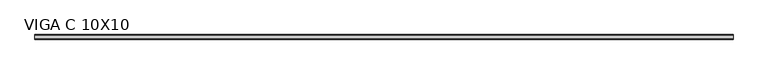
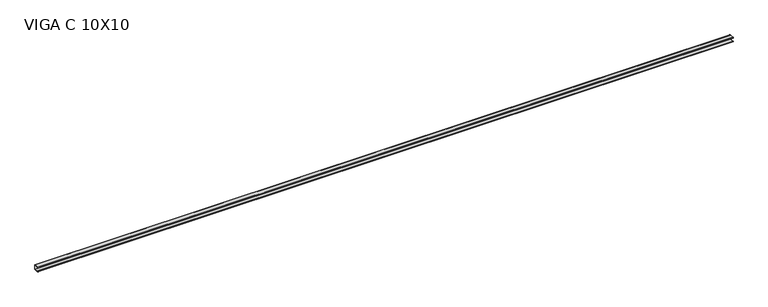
"""IFC4 building model written with IfcOpenShell, lengths in millimetres: beam geometry, VIGA PERFIL C AÇO : VIGA C 10X10."""

from ifc_helpers import new_model, si_unit, point, frame, frame_2d, origin, place, context, project, spatial, polyline, circle_curve, trimmed, segment, composite_curve, outline, extrude, source, transform, mapped, element, save


def viga_c_10x10_1bc73bf7(model_context):
    return source(origin(), model_context, "Body", "SweptSolid", [
        extrude(outline(polyline([(9.2, -50.0), (-90.8, -50.0), (-90.8, -30.0), (-88.9, -30.0), (-88.9, -48.1), (7.3, -48.1), (7.3, 48.1), (-88.9, 48.1), (-88.9, 30.0), (-90.8, 30.0), (-90.8, 50.0), (9.2, 50.0), (9.2, -50.0)])), frame((-7485.0, 0.0, 0.0), z_axis=(1.0, 0.0, 0.0), x_axis=(0.0, 1.0, 0.0)), (0.0, 0.0, 1.0), 14970.0),
        extrude(outline(composite_curve([segment(trimmed(circle_curve(frame_2d((5.4, -46.2)), 3.8), [point((9.2, -46.2))], [point((5.4, -50.0))], False, "CARTESIAN"), True, "CONTINUOUS"), segment(polyline([(5.4, -50.0), (-87.0, -50.0)]), True, "CONTINUOUS"), segment(trimmed(circle_curve(frame_2d((-87.0, -46.2)), 3.8), [point((-87.0, -50.0))], [point((-90.8, -46.2))], False, "CARTESIAN"), True, "CONTINUOUS"), segment(polyline([(-90.8, -46.2), (-90.8, -30.0), (-88.9, -30.0), (-88.9, -46.2)]), True, "CONTINUOUS"), segment(trimmed(circle_curve(frame_2d((-87.0, -46.2)), 1.9), [point((-88.9, -46.2))], [point((-87.0, -48.1))], True, "CARTESIAN"), True, "CONTINUOUS"), segment(polyline([(-87.0, -48.1), (5.4, -48.1)]), True, "CONTINUOUS"), segment(trimmed(circle_curve(frame_2d((5.4, -46.2)), 1.9), [point((5.4, -48.1))], [point((7.3, -46.2))], True, "CARTESIAN"), True, "CONTINUOUS"), segment(polyline([(7.3, -46.2), (7.3, 46.2)]), True, "CONTINUOUS"), segment(trimmed(circle_curve(frame_2d((5.4, 46.2)), 1.9), [point((7.3, 46.2))], [point((5.4, 48.1))], True, "CARTESIAN"), True, "CONTINUOUS"), segment(polyline([(5.4, 48.1), (-87.0, 48.1)]), True, "CONTINUOUS"), segment(trimmed(circle_curve(frame_2d((-87.0, 46.2)), 1.9), [point((-87.0, 48.1))], [point((-88.9, 46.2))], True, "CARTESIAN"), True, "CONTINUOUS"), segment(polyline([(-88.9, 46.2), (-88.9, 30.0), (-90.8, 30.0), (-90.8, 46.2)]), True, "CONTINUOUS"), segment(trimmed(circle_curve(frame_2d((-87.0, 46.2)), 3.8), [point((-90.8, 46.2))], [point((-87.0, 50.0))], False, "CARTESIAN"), True, "CONTINUOUS"), segment(polyline([(-87.0, 50.0), (5.4, 50.0)]), True, "CONTINUOUS"), segment(trimmed(circle_curve(frame_2d((5.4, 46.2)), 3.8), [point((5.4, 50.0))], [point((9.2, 46.2))], False, "CARTESIAN"), True, "CONTINUOUS"), segment(polyline([(9.2, 46.2), (9.2, -46.2)]), True, "CONTINUOUS")], self_intersect=False)), frame((-7485.0, 0.0, 0.0), z_axis=(1.0, 0.0, 0.0), x_axis=(0.0, 1.0, 0.0)), (0.0, 0.0, 1.0), 14970.0),
    ])


if __name__ == "__main__":
    model = new_model("IFC4")
    model_context = context("Model", 3, world=origin())
    ifc_project = project(units=[si_unit("LENGTHUNIT", "METRE", prefix="MILLI")], contexts=[model_context])
    site = spatial("IfcSite", under=ifc_project)
    building = spatial("IfcBuilding", under=site)
    placement = place(None, origin())
    viga_c_10x10_shape = viga_c_10x10_1bc73bf7(model_context)
    element("IfcBeam", 1, ObjectType="VIGA PERFIL C AÇO : VIGA C 10X10", at=placement, inside=building, context=model_context, shape_type="MappedRepresentation", body=[
        mapped(viga_c_10x10_shape, transform((0.0, 0.0, 0.0), x_axis=(1.0, 0.0, 0.0), y_axis=(0.0, 1.0, 0.0), z_axis=(0.0, 0.0, 1.0))),
    ])
    save(model, "model.ifc")
